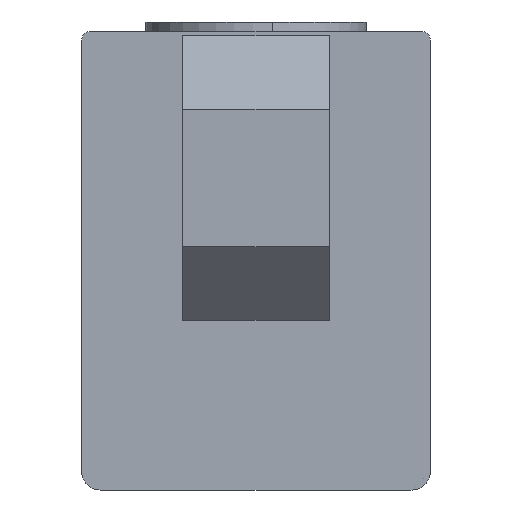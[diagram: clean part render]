
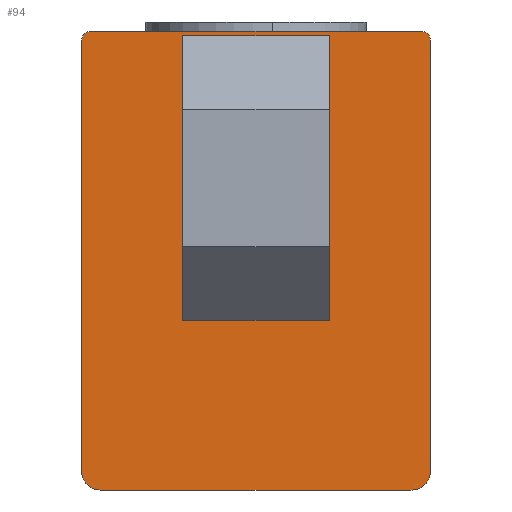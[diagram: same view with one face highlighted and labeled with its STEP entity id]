
A CAD part, front view. The second image highlights one B-rep face of the part: STEP entity #94.
In plain terms, the highlighted planar face has unit normal (0, -1, 0).
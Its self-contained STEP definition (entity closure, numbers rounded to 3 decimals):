
#94=ADVANCED_FACE('NONE',(#241,#242),#243,.T.);
#241=FACE_OUTER_BOUND('',#527,.T.);
#242=FACE_BOUND('',#528,.T.);
#243=PLANE('',#529);
#527=EDGE_LOOP('',(#856,#857,#858,#859,#860,#861,#862,#863));
#528=EDGE_LOOP('',(#864,#865,#866,#867,#868,#869));
#529=AXIS2_PLACEMENT_3D('',#870,#871,#872);
#856=ORIENTED_EDGE('',*,*,#1897,.F.);
#857=ORIENTED_EDGE('',*,*,#1898,.T.);
#858=ORIENTED_EDGE('',*,*,#1899,.T.);
#859=ORIENTED_EDGE('',*,*,#1900,.T.);
#860=ORIENTED_EDGE('',*,*,#1901,.T.);
#861=ORIENTED_EDGE('',*,*,#1902,.T.);
#862=ORIENTED_EDGE('',*,*,#1903,.F.);
#863=ORIENTED_EDGE('',*,*,#1904,.T.);
#864=ORIENTED_EDGE('',*,*,#1905,.F.);
#865=ORIENTED_EDGE('',*,*,#1906,.F.);
#866=ORIENTED_EDGE('',*,*,#1907,.F.);
#867=ORIENTED_EDGE('',*,*,#1908,.F.);
#868=ORIENTED_EDGE('',*,*,#1909,.F.);
#869=ORIENTED_EDGE('',*,*,#1910,.F.);
#870=CARTESIAN_POINT('',(-9.5,0.0,-25.0));
#871=DIRECTION('',(0.0,-1.0,0.0));
#872=DIRECTION('',(0.0,0.0,-1.0));
#1897=EDGE_CURVE('NONE',#2280,#2281,#2282,.T.);
#1898=EDGE_CURVE('NONE',#2280,#2283,#2284,.T.);
#1899=EDGE_CURVE('NONE',#2283,#2285,#2286,.T.);
#1900=EDGE_CURVE('NONE',#2285,#2287,#2288,.T.);
#1901=EDGE_CURVE('NONE',#2287,#2289,#2290,.T.);
#1902=EDGE_CURVE('NONE',#2289,#2291,#2292,.T.);
#1903=EDGE_CURVE('NONE',#2293,#2291,#2294,.T.);
#1904=EDGE_CURVE('NONE',#2293,#2281,#2295,.T.);
#1905=EDGE_CURVE('NONE',#2296,#2297,#2298,.T.);
#1906=EDGE_CURVE('NONE',#2299,#2296,#2300,.T.);
#1907=EDGE_CURVE('NONE',#2301,#2299,#2302,.T.);
#1908=EDGE_CURVE('NONE',#2303,#2301,#2304,.T.);
#1909=EDGE_CURVE('NONE',#2305,#2303,#2306,.T.);
#1910=EDGE_CURVE('NONE',#2297,#2305,#2307,.T.);
#2280=VERTEX_POINT('NONE',#2880);
#2281=VERTEX_POINT('NONE',#2881);
#2282=LINE('',#2882,#2883);
#2283=VERTEX_POINT('NONE',#2884);
#2284=CIRCLE('',#2885,1.0);
#2285=VERTEX_POINT('NONE',#2886);
#2286=LINE('',#2887,#2888);
#2287=VERTEX_POINT('NONE',#2889);
#2288=CIRCLE('',#2890,1.0);
#2289=VERTEX_POINT('NONE',#2891);
#2290=LINE('',#2892,#2893);
#2291=VERTEX_POINT('NONE',#2894);
#2292=CIRCLE('',#2895,0.5);
#2293=VERTEX_POINT('NONE',#2896);
#2294=LINE('',#2897,#2898);
#2295=CIRCLE('',#2899,0.5);
#2296=VERTEX_POINT('NONE',#2900);
#2297=VERTEX_POINT('NONE',#2901);
#2298=LINE('',#2902,#2903);
#2299=VERTEX_POINT('NONE',#2904);
#2300=LINE('',#2905,#2906);
#2301=VERTEX_POINT('NONE',#2907);
#2302=CIRCLE('',#2908,4.0);
#2303=VERTEX_POINT('NONE',#2909);
#2304=LINE('',#2910,#2911);
#2305=VERTEX_POINT('NONE',#2912);
#2306=LINE('',#2913,#2914);
#2307=CIRCLE('',#2915,4.0);
#2880=CARTESIAN_POINT('',(-9.5,0.0,-24.0));
#2881=CARTESIAN_POINT('',(-9.5,0.0,-0.5));
#2882=CARTESIAN_POINT('',(-9.5,0.0,-25.0));
#2883=VECTOR('',#3641,1000.0);
#2884=CARTESIAN_POINT('',(-8.5,0.0,-25.0));
#2885=AXIS2_PLACEMENT_3D('',#3642,#3643,#3644);
#2886=CARTESIAN_POINT('',(8.5,0.0,-25.0));
#2887=CARTESIAN_POINT('',(-9.5,0.0,-25.0));
#2888=VECTOR('',#3645,1000.0);
#2889=CARTESIAN_POINT('',(9.5,0.0,-24.0));
#2890=AXIS2_PLACEMENT_3D('',#3646,#3647,#3648);
#2891=CARTESIAN_POINT('',(9.5,0.0,-0.5));
#2892=CARTESIAN_POINT('',(9.5,0.0,-25.0));
#2893=VECTOR('',#3649,1000.0);
#2894=CARTESIAN_POINT('',(9.0,0.0,0.0));
#2895=AXIS2_PLACEMENT_3D('',#3650,#3651,#3652);
#2896=CARTESIAN_POINT('',(-9.0,0.0,0.0));
#2897=CARTESIAN_POINT('',(-9.5,0.0,0.0));
#2898=VECTOR('',#3653,1000.0);
#2899=AXIS2_PLACEMENT_3D('',#3654,#3655,#3656);
#2900=CARTESIAN_POINT('',(4.0,0.0,-4.0));
#2901=CARTESIAN_POINT('',(0.0,0.0,-4.0));
#2902=CARTESIAN_POINT('',(4.0,0.0,-4.0));
#2903=VECTOR('',#3657,1000.0);
#2904=CARTESIAN_POINT('',(4.0,0.0,-8.0));
#2905=CARTESIAN_POINT('',(4.0,0.0,-4.0));
#2906=VECTOR('',#3658,1000.0);
#2907=CARTESIAN_POINT('',(0.0,0.0,-12.0));
#2908=AXIS2_PLACEMENT_3D('',#3659,#3660,#3661);
#2909=CARTESIAN_POINT('',(-4.0,0.0,-12.0));
#2910=CARTESIAN_POINT('',(0.0,0.0,-12.0));
#2911=VECTOR('',#3662,1000.0);
#2912=CARTESIAN_POINT('',(-4.0,0.0,-8.0));
#2913=CARTESIAN_POINT('',(-4.0,0.0,-8.0));
#2914=VECTOR('',#3663,1000.0);
#2915=AXIS2_PLACEMENT_3D('',#3664,#3665,#3666);
#3641=DIRECTION('',(0.0,0.0,1.0));
#3642=CARTESIAN_POINT('',(-8.5,0.0,-24.0));
#3643=DIRECTION('',(0.0,-1.0,0.0));
#3644=DIRECTION('',(0.0,0.0,-1.0));
#3645=DIRECTION('',(1.0,0.0,0.0));
#3646=CARTESIAN_POINT('',(8.5,0.0,-24.0));
#3647=DIRECTION('',(0.0,-1.0,0.0));
#3648=DIRECTION('',(0.0,0.0,-1.0));
#3649=DIRECTION('',(0.0,0.0,1.0));
#3650=CARTESIAN_POINT('',(9.0,0.0,-0.5));
#3651=DIRECTION('',(0.0,-1.0,0.0));
#3652=DIRECTION('',(0.0,0.0,-1.0));
#3653=DIRECTION('',(1.0,0.0,0.0));
#3654=CARTESIAN_POINT('',(-9.0,0.0,-0.5));
#3655=DIRECTION('',(0.0,-1.0,0.0));
#3656=DIRECTION('',(0.0,0.0,-1.0));
#3657=DIRECTION('',(-1.0,0.0,0.));
#3658=DIRECTION('',(0.0,0.0,1.0));
#3659=CARTESIAN_POINT('',(0.0,0.0,-8.0));
#3660=DIRECTION('',(0.0,-1.0,0.0));
#3661=DIRECTION('',(0.0,0.0,-1.0));
#3662=DIRECTION('',(1.0,0.0,0.0));
#3663=DIRECTION('',(0.0,0.0,-1.0));
#3664=CARTESIAN_POINT('',(0.0,0.0,-8.0));
#3665=DIRECTION('',(0.0,-1.0,0.0));
#3666=DIRECTION('',(0.0,0.0,-1.0));
